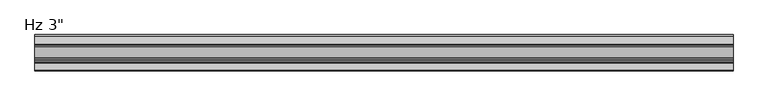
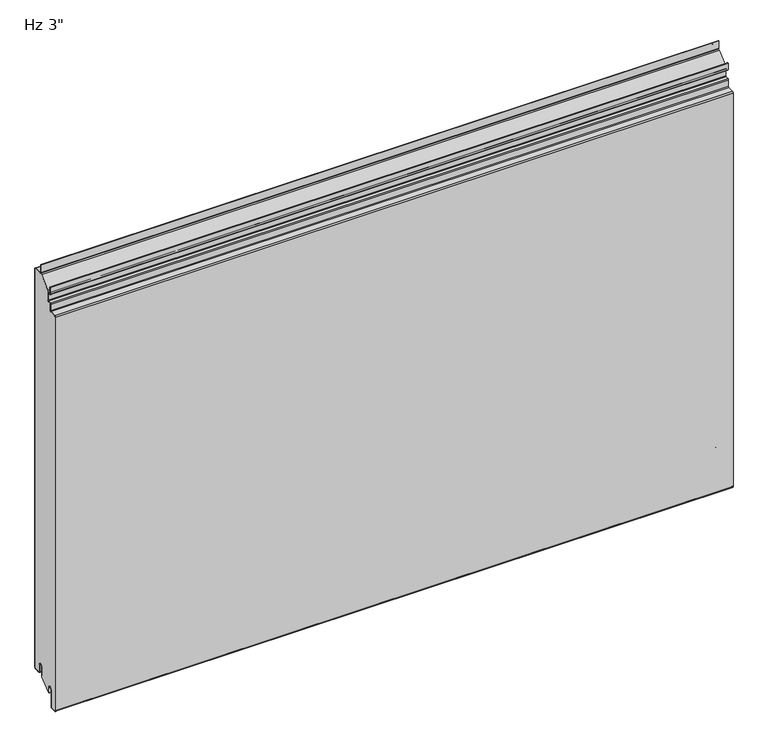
"""IFC4 building model written with IfcOpenShell, lengths in millimetres: plate geometry."""

from ifc_helpers import new_model, si_unit, point, frame, frame_2d, origin, place, context, project, spatial, polyline, circle_curve, ellipse_curve, trimmed, segment, composite_curve, outline, extrude, source, transform, mapped, element, save
from ifc_brep_helpers import plane_surface, cylinder_surface, revolved_surface, extruded_surface, advanced_brep


def plate_041463de(model_context):
    return source(origin(), model_context, "Body", "SolidModel", [
        extrude(outline(composite_curve([segment(trimmed(circle_curve(frame_2d((-21.43125, 19.05)), 4.96875), [point((-16.4625, 19.05))], [point((-26.4, 19.05))], True, "CARTESIAN"), True, "CONTINUOUS"), segment(polyline([(-26.4, 19.05), (-26.4, -3.1323422), (-49.2157227, -23.01875), (-50.8, -23.01875), (-50.8, -13.5080174), (-51.59375, -13.5080174), (-51.3875, -11.9205174)]), True, "CONTINUOUS"), segment(trimmed(circle_curve(frame_2d((-56.35625, -11.9205174)), 4.96875), [point((-51.3875, -11.9205174))], [point((-61.325, -11.9205174))], True, "CARTESIAN"), True, "CONTINUOUS"), segment(polyline([(-61.325, -11.9205174), (-61.325, -50.1038221)]), True, "CONTINUOUS"), segment(trimmed(circle_curve(frame_2d((-62.70625, -50.1038221)), 1.38125), [point((-61.325, -50.1038221))], [point((-62.633961, -51.4831791))], False, "CARTESIAN"), True, "CONTINUOUS"), segment(polyline([(-62.633961, -51.4831791), (-73.746461, -52.0655606)]), True, "CONTINUOUS"), segment(trimmed(circle_curve(frame_2d((-73.81875, -50.6862035)), 1.38125), [point((-73.746461, -52.0655606))], [point((-75.2, -50.6862035))], False, "CARTESIAN"), True, "CONTINUOUS"), segment(polyline([(-75.2, -50.6862035), (-75.2, 846.2447607)]), True, "CONTINUOUS"), segment(trimmed(circle_curve(frame_2d((-73.81875, 846.2447607)), 1.38125), [point((-75.2, 846.2447607))], [point((-73.891039, 847.6241177))], False, "CARTESIAN"), True, "CONTINUOUS"), segment(polyline([(-73.891039, 847.6241177), (-60.1895807, 848.3421807)]), True, "CONTINUOUS"), segment(trimmed(circle_curve(frame_2d((-60.325, 850.9261347)), 2.5875), [point((-60.1895807, 848.3421807))], [point((-57.7375, 850.9261347))], True, "CARTESIAN"), True, "CONTINUOUS"), segment(polyline([(-57.7375, 850.9261347), (-57.7375, 865.0824411)]), True, "CONTINUOUS"), segment(trimmed(circle_curve(frame_2d((-56.35625, 865.0824411)), 1.38125), [point((-57.7375, 865.0824411))], [point((-56.428539, 866.4617981))], False, "CARTESIAN"), True, "CONTINUOUS"), segment(polyline([(-56.428539, 866.4617981), (-50.6645807, 866.7638744)]), True, "CONTINUOUS"), segment(trimmed(circle_curve(frame_2d((-50.8, 869.3478283)), 2.5875), [point((-50.6645807, 866.7638744))], [point((-48.2125, 869.3478283))], True, "CARTESIAN"), True, "CONTINUOUS"), segment(polyline([(-48.2125, 869.3478283), (-48.2125, 891.7892934), (-24.9057308, 912.60625), (-2.38125, 912.60625)]), True, "CONTINUOUS"), segment(trimmed(circle_curve(frame_2d((-2.38125, 911.225)), 1.38125), [point((-2.38125, 912.60625))], [point((-1.0, 911.225))], False, "CARTESIAN"), True, "CONTINUOUS"), segment(polyline([(-1.0, 911.225), (-1.0, 3.175)]), True, "CONTINUOUS"), segment(trimmed(circle_curve(frame_2d((-2.38125, 3.175)), 1.38125), [point((-1.0, 3.175))], [point((-2.38125, 1.79375))], False, "CARTESIAN"), True, "CONTINUOUS"), segment(polyline([(-2.38125, 1.79375), (-15.08125, 1.79375)]), True, "CONTINUOUS"), segment(trimmed(circle_curve(frame_2d((-15.08125, 3.175)), 1.38125), [point((-15.08125, 1.79375))], [point((-16.4625, 3.175))], False, "CARTESIAN"), True, "CONTINUOUS"), segment(polyline([(-16.4625, 3.175), (-16.4625, 19.05)]), True, "CONTINUOUS")], self_intersect=False)), frame((-730.0, 0.0, 0.0), z_axis=(1.0, 0.0, 0.0), x_axis=(0.0, 1.0, 0.0)), (0.0, 0.0, 1.0), 1460.0),
        extrude(outline(composite_curve([segment(polyline([(-25.4, 0.79375), (-26.4, 0.79375), (-26.4, 19.05)]), True, "CONTINUOUS"), segment(trimmed(circle_curve(frame_2d((-21.43125, 19.05)), 4.96875), [point((-26.4, 19.05))], [point((-16.4625, 19.05))], False, "CARTESIAN"), True, "CONTINUOUS"), segment(polyline([(-16.4625, 19.05), (-16.4625, 3.175)]), True, "CONTINUOUS"), segment(trimmed(circle_curve(frame_2d((-15.08125, 3.175)), 1.38125), [point((-16.4625, 3.175))], [point((-15.08125, 1.79375))], True, "CARTESIAN"), True, "CONTINUOUS"), segment(polyline([(-15.08125, 1.79375), (-2.38125, 1.79375)]), True, "CONTINUOUS"), segment(trimmed(circle_curve(frame_2d((-2.38125, 3.175)), 1.38125), [point((-2.38125, 1.79375))], [point((-1.0, 3.175))], True, "CARTESIAN"), True, "CONTINUOUS"), segment(polyline([(-1.0, 3.175), (-1.0, 911.225)]), True, "CONTINUOUS"), segment(trimmed(circle_curve(frame_2d((-2.38125, 911.225)), 1.38125), [point((-1.0, 911.225))], [point((-2.38125, 912.60625))], True, "CARTESIAN"), True, "CONTINUOUS"), segment(polyline([(-2.38125, 912.60625), (-19.446875, 912.60625)]), True, "CONTINUOUS"), segment(trimmed(circle_curve(frame_2d((-19.446875, 915.19375)), 2.5875), [point((-19.446875, 912.60625))], [point((-22.034375, 915.19375))], False, "CARTESIAN"), True, "CONTINUOUS"), segment(polyline([(-22.034375, 915.19375), (-22.034375, 932.65625), (-21.034375, 932.65625), (-21.034375, 915.19375)]), True, "CONTINUOUS"), segment(trimmed(circle_curve(frame_2d((-19.446875, 915.19375)), 1.5875), [point((-21.034375, 915.19375))], [point((-19.446875, 913.60625))], True, "CARTESIAN"), True, "CONTINUOUS"), segment(polyline([(-19.446875, 913.60625), (-2.38125, 913.60625)]), True, "CONTINUOUS"), segment(trimmed(circle_curve(frame_2d((-2.38125, 911.225)), 2.38125), [point((-2.38125, 913.60625))], [point((0.0, 911.225))], False, "CARTESIAN"), True, "CONTINUOUS"), segment(polyline([(0.0, 911.225), (0.0, 3.175)]), True, "CONTINUOUS"), segment(trimmed(circle_curve(frame_2d((-2.38125, 3.175)), 2.38125), [point((0.0, 3.175))], [point((-2.38125, 0.79375))], False, "CARTESIAN"), True, "CONTINUOUS"), segment(polyline([(-2.38125, 0.79375), (-15.08125, 0.79375)]), True, "CONTINUOUS"), segment(trimmed(circle_curve(frame_2d((-15.08125, 3.175)), 2.38125), [point((-15.08125, 0.79375))], [point((-17.4625, 3.175))], False, "CARTESIAN"), True, "CONTINUOUS"), segment(polyline([(-17.4625, 3.175), (-17.4625, 19.05)]), True, "CONTINUOUS"), segment(trimmed(circle_curve(frame_2d((-21.43125, 19.05)), 3.96875), [point((-17.4625, 19.05))], [point((-25.4, 19.05))], True, "CARTESIAN"), True, "CONTINUOUS"), segment(polyline([(-25.4, 19.05), (-25.4, 0.79375)]), True, "CONTINUOUS")], self_intersect=False)), frame((-730.0, 0.0, 0.0), z_axis=(1.0, 0.0, 0.0), x_axis=(0.0, 1.0, 0.0)), (0.0, 0.0, 1.0), 1460.0),
        advanced_brep(
        [(-730.0, -50.8, -23.2314549), (-730.0, -52.3875, -23.2314549), (-730.0, -52.3875, -11.9205174), (-730.0, -60.325, -11.9205174), (-730.0, -60.325, -50.1038221), (-730.0, -62.581625, -52.4818086), (-730.0, -73.694125, -53.0641901), (-730.0, -76.2, -50.6862035), (-730.0, -76.2, 846.2447607), (-730.0, -73.943375, 848.6227473), (-730.0, -60.2419167, 849.3408103), (-730.0, -58.7375, 850.9261347), (-730.0, -58.7375, 865.0824411), (-730.0, -56.480875, 867.4604276), (-730.0, -50.7169167, 867.7625039), (-730.0, -49.2125, 869.3478283), (-730.0, -49.2125, 884.2232326), (-730.0, -50.8, 885.8107326), (-730.0, -54.9671875, 885.8107326), (-730.0, -57.3484375, 888.1919826), (-730.0, -57.3484375, 902.6836032), (-730.0, -55.5546875, 902.6836032), (-730.0, -55.5546875, 892.9544826), (-730.0, -56.3484375, 892.9544826), (-730.0, -56.3484375, 888.1919826), (-730.0, -54.9671875, 886.8107326), (-730.0, -50.8, 886.8107326), (-730.0, -48.2125, 884.2232326), (-730.0, -48.2125, 869.3478283), (-730.0, -50.6645807, 866.7638744), (-730.0, -56.428539, 866.4617981), (-730.0, -57.7375, 865.0824411), (-730.0, -57.7375, 850.9261347), (-730.0, -60.1895807, 848.3421807), (-730.0, -73.891039, 847.6241177), (-730.0, -75.2, 846.2447607), (-730.0, -75.2, -50.6862035), (-730.0, -73.746461, -52.0655606), (-730.0, -62.633961, -51.4831791), (-730.0, -61.325, -50.1038221), (-730.0, -61.325, -11.9205174), (-730.0, -51.3875, -11.9205174), (-730.0, -51.59375, -13.5080174), (-730.0, -50.8, -13.5080174), (730.0, -50.8, -23.2314549), (730.0, -50.8, -13.5080174), (730.0, -51.59375, -13.5080174), (730.0, -51.3875, -11.9205174), (730.0, -61.325, -11.9205174), (730.0, -61.325, -50.1038221), (730.0, -62.633961, -51.4831791), (730.0, -73.746461, -52.0655606), (730.0, -75.2, -50.6862035), (730.0, -75.2, 846.2447607), (730.0, -73.891039, 847.6241177), (730.0, -60.1895807, 848.3421807), (730.0, -57.7375, 850.9261347), (730.0, -57.7375, 865.0824411), (730.0, -56.428539, 866.4617981), (730.0, -50.6645807, 866.7638744), (730.0, -48.2125, 869.3478283), (730.0, -48.2125, 884.2232326), (730.0, -50.8, 886.8107326), (730.0, -54.9671875, 886.8107326), (730.0, -56.3484375, 888.1919826), (730.0, -56.3484375, 892.9544826), (730.0, -55.5546875, 892.9544826), (730.0, -55.5546875, 902.6836032), (730.0, -57.3484375, 902.6836032), (730.0, -57.3484375, 888.1919826), (730.0, -54.9671875, 885.8107326), (730.0, -50.8, 885.8107326), (730.0, -49.2125, 884.2232326), (730.0, -49.2125, 869.3478283), (730.0, -50.7169167, 867.7625039), (730.0, -56.480875, 867.4604276), (730.0, -58.7375, 865.0824411), (730.0, -58.7375, 850.9261347), (730.0, -60.2419167, 849.3408103), (730.0, -73.943375, 848.6227473), (730.0, -76.2, 846.2447607), (730.0, -76.2, -50.6862035), (730.0, -73.694125, -53.0641901), (730.0, -62.581625, -52.4818086), (730.0, -60.325, -50.1038221), (730.0, -60.325, -11.9205174), (730.0, -52.3875, -11.9205174), (730.0, -52.3875, -23.2314549)],
        [
            (0, 1, circle_curve(frame((-730.0, -51.59375, -23.2314549), z_axis=(-1.0, 0.0, 0.0), x_axis=(0.0, 0.0, -1.0)), 0.79375)),
            (1, 2),
            (2, 3, circle_curve(frame((-730.0, -56.35625, -11.9205174), z_axis=(1.0, 0.0, 0.0), x_axis=(0.0, 0.0, -1.0)), 3.96875)),
            (3, 4),
            (4, 5, circle_curve(frame((-730.0, -62.70625, -50.1038221), z_axis=(-1.0, 0.0, 0.0), x_axis=(0.0, 0.0, -1.0)), 2.38125)),
            (5, 6),
            (6, 7, circle_curve(frame((-730.0, -73.81875, -50.6862035), z_axis=(-1.0, 0.0, 0.0), x_axis=(0.0, 0.0, -1.0)), 2.38125)),
            (7, 8),
            (8, 9, circle_curve(frame((-730.0, -73.81875, 846.2447607), z_axis=(-1.0, 0.0, 0.0), x_axis=(0.0, 0.0, -1.0)), 2.38125)),
            (9, 10),
            (10, 11, circle_curve(frame((-730.0, -60.325, 850.9261347), z_axis=(1.0, 0.0, 0.0), x_axis=(0.0, 0.0, -1.0)), 1.5875)),
            (11, 12),
            (12, 13, circle_curve(frame((-730.0, -56.35625, 865.0824411), z_axis=(-1.0, 0.0, 0.0), x_axis=(0.0, 0.0, -1.0)), 2.38125)),
            (13, 14),
            (14, 15, circle_curve(frame((-730.0, -50.8, 869.3478283), z_axis=(1.0, 0.0, 0.0), x_axis=(0.0, 0.0, -1.0)), 1.5875)),
            (15, 16),
            (16, 17, circle_curve(frame((-730.0, -50.8, 884.2232326), z_axis=(1.0, 0.0, 0.0), x_axis=(0.0, 0.0, -1.0)), 1.5875)),
            (17, 18),
            (18, 19, circle_curve(frame((-730.0, -54.9671875, 888.1919826), z_axis=(-1.0, 0.0, 0.0), x_axis=(0.0, 0.0, -1.0)), 2.38125)),
            (19, 20),
            (20, 21, ellipse_curve(frame((-730.0, -56.4515625, 902.6836032), z_axis=(-1.0, 0.0, 0.0), x_axis=(0.0, 1.0, 0.0)), 0.896875, 0.7852275)),
            (21, 22),
            (22, 23),
            (23, 24),
            (24, 25, circle_curve(frame((-730.0, -54.9671875, 888.1919826), z_axis=(1.0, 0.0, 0.0), x_axis=(0.0, 0.0, -1.0)), 1.38125)),
            (25, 26),
            (26, 27, circle_curve(frame((-730.0, -50.8, 884.2232326), z_axis=(-1.0, 0.0, 0.0), x_axis=(0.0, 0.0, -1.0)), 2.5875)),
            (27, 28),
            (28, 29, circle_curve(frame((-730.0, -50.8, 869.3478283), z_axis=(-1.0, 0.0, 0.0), x_axis=(0.0, 0.0, -1.0)), 2.5875)),
            (29, 30),
            (30, 31, circle_curve(frame((-730.0, -56.35625, 865.0824411), z_axis=(1.0, 0.0, 0.0), x_axis=(0.0, 0.0, -1.0)), 1.38125)),
            (31, 32),
            (32, 33, circle_curve(frame((-730.0, -60.325, 850.9261347), z_axis=(-1.0, 0.0, 0.0), x_axis=(0.0, 0.0, -1.0)), 2.5875)),
            (33, 34),
            (34, 35, circle_curve(frame((-730.0, -73.81875, 846.2447607), z_axis=(1.0, 0.0, 0.0), x_axis=(0.0, 0.0, -1.0)), 1.38125)),
            (35, 36),
            (36, 37, circle_curve(frame((-730.0, -73.81875, -50.6862035), z_axis=(1.0, 0.0, 0.0), x_axis=(0.0, 0.0, -1.0)), 1.38125)),
            (37, 38),
            (38, 39, circle_curve(frame((-730.0, -62.70625, -50.1038221), z_axis=(1.0, 0.0, 0.0), x_axis=(0.0, 0.0, -1.0)), 1.38125)),
            (39, 40),
            (40, 41, circle_curve(frame((-730.0, -56.35625, -11.9205174), z_axis=(-1.0, 0.0, 0.0), x_axis=(0.0, 0.0, -1.0)), 4.96875)),
            (41, 42),
            (42, 43),
            (43, 0),
            (44, 45),
            (45, 46),
            (46, 47),
            (47, 48, circle_curve(frame((730.0, -56.35625, -11.9205174), z_axis=(1.0, 0.0, 0.0), x_axis=(0.0, 0.0, -1.0)), 4.96875)),
            (48, 49),
            (49, 50, circle_curve(frame((730.0, -62.70625, -50.1038221), z_axis=(-1.0, 0.0, 0.0), x_axis=(0.0, 0.0, -1.0)), 1.38125)),
            (50, 51),
            (51, 52, circle_curve(frame((730.0, -73.81875, -50.6862035), z_axis=(-1.0, 0.0, 0.0), x_axis=(0.0, 0.0, -1.0)), 1.38125)),
            (52, 53),
            (53, 54, circle_curve(frame((730.0, -73.81875, 846.2447607), z_axis=(-1.0, 0.0, 0.0), x_axis=(0.0, 0.0, -1.0)), 1.38125)),
            (54, 55),
            (55, 56, circle_curve(frame((730.0, -60.325, 850.9261347), z_axis=(1.0, 0.0, 0.0), x_axis=(0.0, 0.0, -1.0)), 2.5875)),
            (56, 57),
            (57, 58, circle_curve(frame((730.0, -56.35625, 865.0824411), z_axis=(-1.0, 0.0, 0.0), x_axis=(0.0, 0.0, -1.0)), 1.38125)),
            (58, 59),
            (59, 60, circle_curve(frame((730.0, -50.8, 869.3478283), z_axis=(1.0, 0.0, 0.0), x_axis=(0.0, 0.0, -1.0)), 2.5875)),
            (60, 61),
            (61, 62, circle_curve(frame((730.0, -50.8, 884.2232326), z_axis=(1.0, 0.0, 0.0), x_axis=(0.0, 0.0, -1.0)), 2.5875)),
            (62, 63),
            (63, 64, circle_curve(frame((730.0, -54.9671875, 888.1919826), z_axis=(-1.0, 0.0, 0.0), x_axis=(0.0, 0.0, -1.0)), 1.38125)),
            (64, 65),
            (65, 66),
            (66, 67),
            (67, 68, ellipse_curve(frame((730.0, -56.4515625, 902.6836032), z_axis=(1.0, 0.0, 0.0), x_axis=(0.0, 1.0, 0.0)), 0.896875, 0.7852275)),
            (68, 69),
            (69, 70, circle_curve(frame((730.0, -54.9671875, 888.1919826), z_axis=(1.0, 0.0, 0.0), x_axis=(0.0, 0.0, -1.0)), 2.38125)),
            (70, 71),
            (71, 72, circle_curve(frame((730.0, -50.8, 884.2232326), z_axis=(-1.0, 0.0, 0.0), x_axis=(0.0, 0.0, -1.0)), 1.5875)),
            (72, 73),
            (73, 74, circle_curve(frame((730.0, -50.8, 869.3478283), z_axis=(-1.0, 0.0, 0.0), x_axis=(0.0, 0.0, -1.0)), 1.5875)),
            (74, 75),
            (75, 76, circle_curve(frame((730.0, -56.35625, 865.0824411), z_axis=(1.0, 0.0, 0.0), x_axis=(0.0, 0.0, -1.0)), 2.38125)),
            (76, 77),
            (77, 78, circle_curve(frame((730.0, -60.325, 850.9261347), z_axis=(-1.0, 0.0, 0.0), x_axis=(0.0, 0.0, -1.0)), 1.5875)),
            (78, 79),
            (79, 80, circle_curve(frame((730.0, -73.81875, 846.2447607), z_axis=(1.0, 0.0, 0.0), x_axis=(0.0, 0.0, -1.0)), 2.38125)),
            (80, 81),
            (81, 82, circle_curve(frame((730.0, -73.81875, -50.6862035), z_axis=(1.0, 0.0, 0.0), x_axis=(0.0, 0.0, -1.0)), 2.38125)),
            (82, 83),
            (83, 84, circle_curve(frame((730.0, -62.70625, -50.1038221), z_axis=(1.0, 0.0, 0.0), x_axis=(0.0, 0.0, -1.0)), 2.38125)),
            (84, 85),
            (85, 86, circle_curve(frame((730.0, -56.35625, -11.9205174), z_axis=(-1.0, 0.0, 0.0), x_axis=(0.0, 0.0, -1.0)), 3.96875)),
            (86, 87),
            (87, 44, circle_curve(frame((730.0, -51.59375, -23.2314549), z_axis=(1.0, 0.0, 0.0), x_axis=(0.0, 0.0, -1.0)), 0.79375)),
            (36, 52),
            (51, 37),
            (50, 38),
            (49, 39),
            (48, 40),
            (47, 41),
            (42, 46),
            (45, 43),
            (22, 66),
            (65, 23),
            (21, 67),
            (20, 68),
            (34, 54),
            (53, 35),
            (32, 56),
            (55, 33),
            (30, 58),
            (57, 31),
            (28, 60),
            (59, 29),
            (24, 64),
            (63, 25),
            (26, 62),
            (61, 27),
            (19, 69),
            (17, 71),
            (70, 18),
            (15, 73),
            (72, 16),
            (13, 75),
            (74, 14),
            (11, 77),
            (76, 12),
            (9, 79),
            (78, 10),
            (7, 81),
            (80, 8),
            (5, 83),
            (82, 6),
            (3, 85),
            (84, 4),
            (1, 87),
            (86, 2),
            (44, 0),
        ],
        [
            plane_surface(frame((-730.0, -76.2, 457.2), z_axis=(-1.0, 0.0, 0.0), x_axis=(0.0, -1.0, 0.0))),
            plane_surface(frame((730.0, -76.2, 457.2), z_axis=(1.0, 0.0, 0.0), x_axis=(0.0, -1.0, 0.0))),
            revolved_surface(polyline([(730.0, -73.81875, -52.0674535), (-730.0, -73.81875, -52.0674535)]), (-730.0, -73.81875, -50.6862035), (1.0, 0.0, 0.0)),
            plane_surface(frame((-730.0, -62.633961, -51.4831791), z_axis=(0.0, -0.05233595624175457, 0.9986295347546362), x_axis=(1.0, 0.0, 0.0))),
            revolved_surface(polyline([(730.0, -62.70625, -51.485072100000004), (-730.0, -62.70625, -51.485072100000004)]), (-730.0, -62.70625, -50.1038221), (1.0, 0.0, 0.0)),
            plane_surface(frame((-730.0, -61.325, -11.9205174), z_axis=(0.0, -1.0, 0.0), x_axis=(1.0, 0.0, 0.0))),
            cylinder_surface(frame((-730.0, -56.35625, -11.9205174), z_axis=(-1.0, 0.0, 0.0), x_axis=(0.0, 0.0, -1.0)), 4.96875),
            plane_surface(frame((-730.0, -50.8, -13.5080174), z_axis=(0.0, 0.0, 1.0), x_axis=(1.0, 0.0, 0.0))),
            plane_surface(frame((-730.0, -51.59375, -13.5080174), z_axis=(0.0, 0.9916655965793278, -0.12883844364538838), x_axis=(1.0, 0.0, 0.0))),
            plane_surface(frame((-730.0, -56.3484375, 892.9544826), z_axis=(0.0, 0.0, -1.0), x_axis=(1.0, 0.0, 0.0))),
            plane_surface(frame((-730.0, -55.5546875, 892.9544826), z_axis=(0.0, 1.0, 0.0), x_axis=(1.0, 0.0, 0.0))),
            extruded_surface(trimmed(ellipse_curve(frame((-730.0, -56.4515625, 902.6836032), z_axis=(1.0, 0.0, 0.0), x_axis=(0.0, 1.0, 0.0)), 0.896875, 0.7852275), [point((-730.0, -55.5546875, 902.6836032))], [point((-730.0, -57.3484375, 902.6836032))], True, "CARTESIAN"), (1460.0, 0.0, 0.0), 1460.0),
            revolved_surface(polyline([(730.0, -73.81875, 844.8635107), (-730.0, -73.81875, 844.8635107)]), (-730.0, -73.81875, 846.2447607), (1.0, 0.0, 0.0)),
            cylinder_surface(frame((-730.0, -60.325, 850.9261347), z_axis=(-1.0, 0.0, 0.0), x_axis=(0.0, 0.0, -1.0)), 2.5875),
            plane_surface(frame((-730.0, -73.891039, 847.6241177), z_axis=(0.0, 0.05233595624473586, -0.99862953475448), x_axis=(1.0, 0.0, 0.0))),
            plane_surface(frame((-730.0, -75.2, -50.6862035), z_axis=(0.0, 1.0, 0.0), x_axis=(1.0, 0.0, 0.0))),
            revolved_surface(polyline([(730.0, -56.35625, 863.7011911), (-730.0, -56.35625, 863.7011911)]), (-730.0, -56.35625, 865.0824411), (1.0, 0.0, 0.0)),
            cylinder_surface(frame((-730.0, -50.8, 869.3478283), z_axis=(-1.0, 0.0, 0.0), x_axis=(0.0, 0.0, -1.0)), 2.5875),
            plane_surface(frame((-730.0, -56.428539, 866.4617981), z_axis=(0.0, 0.05233595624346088, -0.9986295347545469), x_axis=(1.0, 0.0, 0.0))),
            plane_surface(frame((-730.0, -57.7375, 850.9261347), z_axis=(0.0, 1.0, 0.0), x_axis=(1.0, 0.0, 0.0))),
            revolved_surface(polyline([(730.0, -54.9671875, 886.8107325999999), (-730.0, -54.9671875, 886.8107325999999)]), (-730.0, -54.9671875, 888.1919826), (1.0, 0.0, 0.0)),
            cylinder_surface(frame((-730.0, -50.8, 884.2232326), z_axis=(-1.0, 0.0, 0.0), x_axis=(0.0, 0.0, -1.0)), 2.5875),
            plane_surface(frame((-730.0, -50.8, 886.8107326), z_axis=(0.0, 0.0, 1.0), x_axis=(1.0, 0.0, 0.0))),
            plane_surface(frame((-730.0, -56.3484375, 888.1919826), z_axis=(0.0, 1.0, 0.0), x_axis=(1.0, 0.0, 0.0))),
            plane_surface(frame((-730.0, -57.3484375, 902.6836032), z_axis=(0.0, -1.0, 0.0), x_axis=(1.0, 0.0, 0.0))),
            plane_surface(frame((-730.0, -54.9671875, 885.8107326), z_axis=(0.0, 0.0, -1.0), x_axis=(1.0, 0.0, 0.0))),
            cylinder_surface(frame((-730.0, -54.9671875, 888.1919826), z_axis=(-1.0, 0.0, 0.0), x_axis=(0.0, 0.0, -1.0)), 2.38125),
            plane_surface(frame((-730.0, -48.2125, 869.3478283), z_axis=(0.0, 1.0, 0.0), x_axis=(1.0, 0.0, 0.0))),
            plane_surface(frame((-730.0, -49.2125, 884.2232326), z_axis=(0.0, -1.0, 0.0), x_axis=(1.0, 0.0, 0.0))),
            plane_surface(frame((-730.0, -50.7169167, 867.7625039), z_axis=(0.0, -0.05233595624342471, 0.9986295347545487), x_axis=(1.0, 0.0, 0.0))),
            revolved_surface(polyline([(730.0, -50.8, 867.7603283), (-730.0, -50.8, 867.7603283)]), (-730.0, -50.8, 869.3478283), (1.0, 0.0, 0.0)),
            revolved_surface(polyline([(730.0, -50.8, 882.6357326), (-730.0, -50.8, 882.6357326)]), (-730.0, -50.8, 884.2232326), (1.0, 0.0, 0.0)),
            plane_surface(frame((-730.0, -58.7375, 865.0824411), z_axis=(0.0, -1.0, 0.0), x_axis=(1.0, 0.0, 0.0))),
            plane_surface(frame((-730.0, -60.2419167, 849.3408103), z_axis=(0.0, -0.052335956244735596, 0.99862953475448), x_axis=(1.0, 0.0, 0.0))),
            revolved_surface(polyline([(730.0, -60.325, 849.3386347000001), (-730.0, -60.325, 849.3386347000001)]), (-730.0, -60.325, 850.9261347), (1.0, 0.0, 0.0)),
            cylinder_surface(frame((-730.0, -56.35625, 865.0824411), z_axis=(-1.0, 0.0, 0.0), x_axis=(0.0, 0.0, -1.0)), 2.38125),
            plane_surface(frame((-730.0, -76.2, 846.2447607), z_axis=(0.0, -1.0, 0.0), x_axis=(1.0, 0.0, 0.0))),
            plane_surface(frame((-730.0, -73.694125, -53.0641901), z_axis=(0.0, 0.05233595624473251, -0.9986295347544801), x_axis=(1.0, 0.0, 0.0))),
            cylinder_surface(frame((-730.0, -73.81875, -50.6862035), z_axis=(-1.0, 0.0, 0.0), x_axis=(0.0, 0.0, -1.0)), 2.38125),
            cylinder_surface(frame((-730.0, -73.81875, 846.2447607), z_axis=(-1.0, 0.0, 0.0), x_axis=(0.0, 0.0, -1.0)), 2.38125),
            plane_surface(frame((-730.0, -60.325, -50.1038221), z_axis=(0.0, 1.0, 0.0), x_axis=(1.0, 0.0, 0.0))),
            plane_surface(frame((-730.0, -52.3875, -11.9205174), z_axis=(0.0, -1.0, 0.0), x_axis=(1.0, 0.0, 0.0))),
            revolved_surface(polyline([(730.0, -56.35625, -15.8892674), (-730.0, -56.35625, -15.8892674)]), (-730.0, -56.35625, -11.9205174), (1.0, 0.0, 0.0)),
            cylinder_surface(frame((-730.0, -62.70625, -50.1038221), z_axis=(-1.0, 0.0, 0.0), x_axis=(0.0, 0.0, -1.0)), 2.38125),
            plane_surface(frame((-730.0, -50.8, -23.2314549), z_axis=(0.0, 1.0, 0.0), x_axis=(1.0, 0.0, 0.0))),
            cylinder_surface(frame((-730.0, -51.59375, -23.2314549), z_axis=(-1.0, 0.0, 0.0), x_axis=(0.0, 0.0, -1.0)), 0.79375),
        ],
        [
            (0, [[1, 2, 3, 4, 5, 6, 7, 8, 9, 10, 11, 12, 13, 14, 15, 16, 17, 18, 19, 20, 21, 22, 23, 24, 25, 26, 27, 28, 29, 30, 31, 32, 33, 34, 35, 36, 37, 38, 39, 40, 41, 42, 43, 44]]),
            (1, [[45, 46, 47, 48, 49, 50, 51, 52, 53, 54, 55, 56, 57, 58, 59, 60, 61, 62, 63, 64, 65, 66, 67, 68, 69, 70, 71, 72, 73, 74, 75, 76, 77, 78, 79, 80, 81, 82, 83, 84, 85, 86, 87, 88]]),
            (2, [[89, -52, 90, -37]]),
            (3, [[-90, -51, 91, -38]]),
            (4, [[-91, -50, 92, -39]]),
            (5, [[-92, -49, 93, -40]]),
            (6, [[-93, -48, 94, -41]]),
            (7, [[95, -46, 96, -43]]),
            (8, [[-94, -47, -95, -42]]),
            (9, [[97, -66, 98, -23]]),
            (10, [[99, -67, -97, -22]]),
            (11, [[100, -68, -99, -21]]),
            (12, [[101, -54, 102, -35]]),
            (13, [[103, -56, 104, -33]]),
            (14, [[-104, -55, -101, -34]]),
            (15, [[-102, -53, -89, -36]]),
            (16, [[105, -58, 106, -31]]),
            (17, [[107, -60, 108, -29]]),
            (18, [[-108, -59, -105, -30]]),
            (19, [[-106, -57, -103, -32]]),
            (20, [[109, -64, 110, -25]]),
            (21, [[111, -62, 112, -27]]),
            (22, [[-110, -63, -111, -26]]),
            (23, [[-98, -65, -109, -24]]),
            (24, [[113, -69, -100, -20]]),
            (25, [[114, -71, 115, -18]]),
            (26, [[-115, -70, -113, -19]]),
            (27, [[-112, -61, -107, -28]]),
            (28, [[116, -73, 117, -16]]),
            (29, [[118, -75, 119, -14]]),
            (30, [[-119, -74, -116, -15]]),
            (31, [[-117, -72, -114, -17]]),
            (32, [[120, -77, 121, -12]]),
            (33, [[122, -79, 123, -10]]),
            (34, [[-123, -78, -120, -11]]),
            (35, [[-121, -76, -118, -13]]),
            (36, [[124, -81, 125, -8]]),
            (37, [[126, -83, 127, -6]]),
            (38, [[-127, -82, -124, -7]]),
            (39, [[-125, -80, -122, -9]]),
            (40, [[128, -85, 129, -4]]),
            (41, [[130, -87, 131, -2]]),
            (42, [[-131, -86, -128, -3]]),
            (43, [[-129, -84, -126, -5]]),
            (44, [[-96, -45, 132, -44]]),
            (45, [[-132, -88, -130, -1]]),
        ],
    ),
    ])


if __name__ == "__main__":
    model = new_model("IFC4")
    model_context = context("Model", 3, world=origin())
    ifc_project = project(units=[si_unit("LENGTHUNIT", "METRE", prefix="MILLI")], contexts=[model_context])
    site = spatial("IfcSite", under=ifc_project)
    building = spatial("IfcBuilding", under=site)
    placement = place(None, origin())
    plate_shape = plate_041463de(model_context)
    element("IfcPlate", 1, ObjectType="KIP-36-DWHR-R19-CP-Hz-F : Hz 3\"", at=placement, inside=building, context=model_context, shape_type="MappedRepresentation", body=[
        mapped(plate_shape, transform((0.0, 0.0, 0.0), x_axis=(1.0, 0.0, 0.0), y_axis=(0.0, 1.0, 0.0), z_axis=(0.0, 0.0, 1.0))),
    ])
    save(model, "model.ifc")
